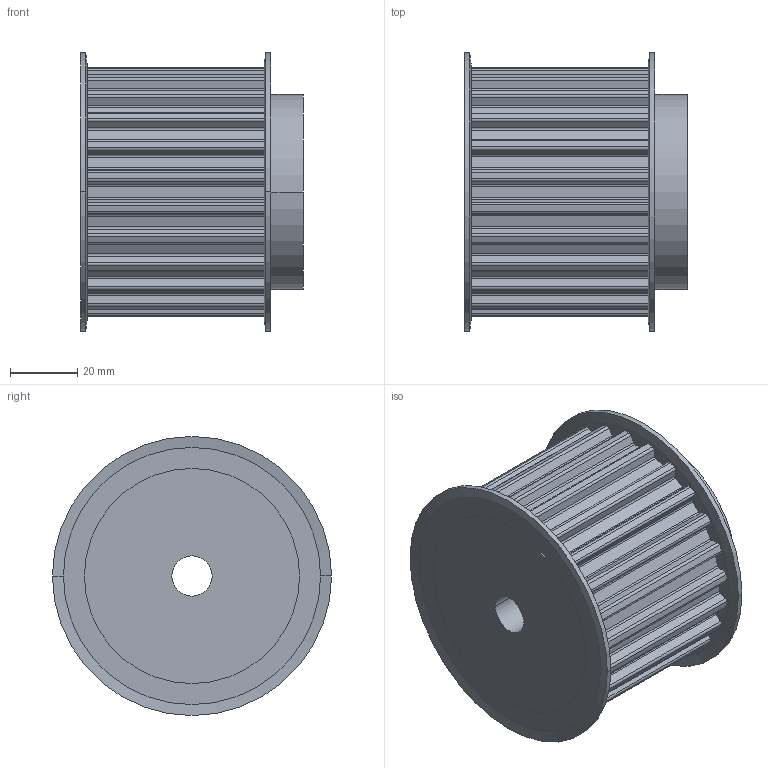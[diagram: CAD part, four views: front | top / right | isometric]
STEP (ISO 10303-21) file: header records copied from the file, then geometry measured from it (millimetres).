
FILE_DESCRIPTION( ( '' ), '1' );
FILE_NAME( 'C:/Users/Stangenbergd/Documents/CAD_Step/1/16452400.stp', '2021-10-19T09:01:19', ( '' ), ( '' ), ' ', ' ', ' ' );
FILE_SCHEMA( ( 'CONFIG_CONTROL_DESIGN' ) );
Length unit declared in the file: millimetre
Products named in the file (1): 1
Bounding box: 66.31 x 83 x 83 mm (x, y, z)
Volume: 242984.3 mm3; surface area: 36106.4 mm2
Topology: 1 solids, 1 shells, 219 faces, 628 edges, 416 vertices
Faces by surface type: cylinder 132, plane 79, cone 8
Entity records: 7318 total; most frequent: DIRECTION 1340, CARTESIAN_POINT 1264, ORIENTED_EDGE 1256, EDGE_CURVE 628, AXIS2_PLACEMENT_3D 492, VERTEX_POINT 416, LINE 356, VECTOR 356
